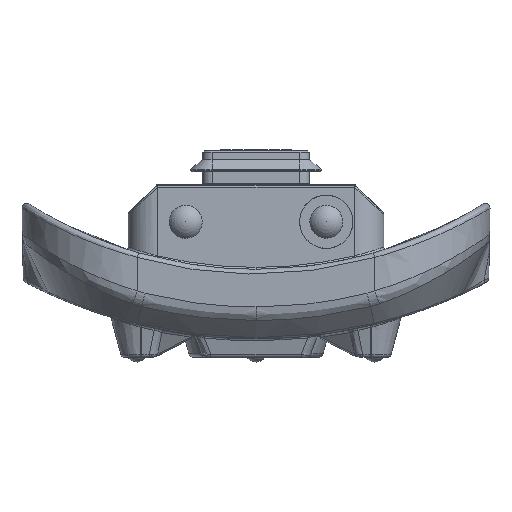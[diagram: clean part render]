
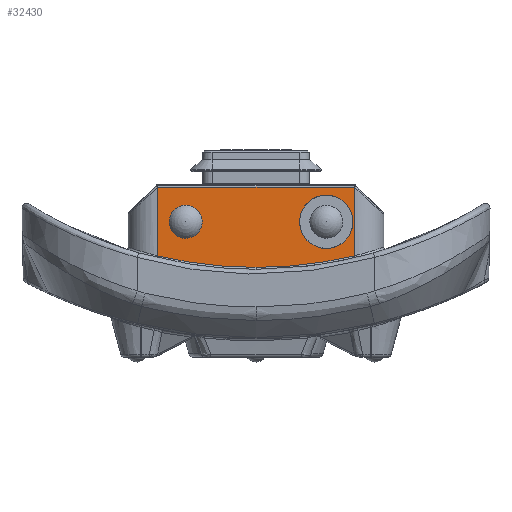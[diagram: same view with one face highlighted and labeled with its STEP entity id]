
A CAD part, front view. The second image highlights one B-rep face of the part: STEP entity #32430.
In plain terms, the highlighted planar face has unit normal (0, -1, 0).
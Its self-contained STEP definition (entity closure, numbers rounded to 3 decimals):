
#400 = EDGE_CURVE ( 'NONE', #36438, #31762, #28485, .T. ) ;
#517 = ORIENTED_EDGE ( 'NONE', *, *, #24513, .F. ) ;
#584 = LINE ( 'NONE', #31722, #32578 ) ;
#980 = ORIENTED_EDGE ( 'NONE', *, *, #3349, .T. ) ;
#2353 = DIRECTION ( 'NONE',  ( 0., 0., -1. ) ) ;
#2901 = DIRECTION ( 'NONE',  ( 0., -1., 0. ) ) ;
#3349 = EDGE_CURVE ( 'NONE', #8003, #18992, #8731, .T. ) ;
#3546 = ORIENTED_EDGE ( 'NONE', *, *, #6140, .T. ) ;
#4860 = ORIENTED_EDGE ( 'NONE', *, *, #33552, .F. ) ;
#4908 = LINE ( 'NONE', #25654, #18975 ) ;
#4979 = CIRCLE ( 'NONE', #25109, 2.809 ) ;
#5248 = AXIS2_PLACEMENT_3D ( 'NONE', #9848, #31419, #37528 ) ;
#5365 = DIRECTION ( 'NONE',  ( 0., 0., -1. ) ) ;
#5452 = EDGE_CURVE ( 'NONE', #26829, #27520, #4979, .T. ) ;
#5464 = VECTOR ( 'NONE', #39872, 1000. ) ;
#6140 = EDGE_CURVE ( 'NONE', #18992, #7410, #4908, .T. ) ;
#6546 = AXIS2_PLACEMENT_3D ( 'NONE', #11855, #2901, #5365 ) ;
#7048 = CARTESIAN_POINT ( 'NONE',  ( 10.346, 36.305, -36.351 ) ) ;
#7410 = VERTEX_POINT ( 'NONE', #12376 ) ;
#7664 = PLANE ( 'NONE',  #34642 ) ;
#8003 = VERTEX_POINT ( 'NONE', #7048 ) ;
#8391 = VERTEX_POINT ( 'NONE', #10214 ) ;
#8460 = DIRECTION ( 'NONE',  ( 0., -1., 0. ) ) ;
#8614 = ORIENTED_EDGE ( 'NONE', *, *, #27063, .F. ) ;
#8731 = LINE ( 'NONE', #39472, #5464 ) ;
#8926 = LINE ( 'NONE', #30700, #22835 ) ;
#9279 = VERTEX_POINT ( 'NONE', #38570 ) ;
#9387 = DIRECTION ( 'NONE',  ( 0., 0., -1. ) ) ;
#9848 = CARTESIAN_POINT ( 'NONE',  ( -7.4, 36.305, -40. ) ) ;
#10214 = CARTESIAN_POINT ( 'NONE',  ( 0., 36.305, -44.8 ) ) ;
#11076 = CIRCLE ( 'NONE', #6546, 2.809 ) ;
#11107 = EDGE_CURVE ( 'NONE', #9279, #8003, #8926, .T. ) ;
#11242 = EDGE_LOOP ( 'NONE', ( #16042, #24106, #37979, #8614, #21282, #980, #3546 ) ) ;
#11855 = CARTESIAN_POINT ( 'NONE',  ( 7.4, 36.305, -40. ) ) ;
#12036 = LINE ( 'NONE', #30958, #12367 ) ;
#12192 = EDGE_LOOP ( 'NONE', ( #28985, #517 ) ) ;
#12367 = VECTOR ( 'NONE', #9387, 1000. ) ;
#12376 = CARTESIAN_POINT ( 'NONE',  ( -10.35, 36.305, -36.354 ) ) ;
#12394 = CIRCLE ( 'NONE', #5248, 1.732 ) ;
#13000 = DIRECTION ( 'NONE',  ( 0., 0., -1. ) ) ;
#13506 = CARTESIAN_POINT ( 'NONE',  ( 10.35, 36.305, -43.588 ) ) ;
#14307 = DIRECTION ( 'NONE',  ( 0., -1., 0. ) ) ;
#16042 = ORIENTED_EDGE ( 'NONE', *, *, #38232, .T. ) ;
#16143 = AXIS2_PLACEMENT_3D ( 'NONE', #35283, #19204, #16752 ) ;
#16752 = DIRECTION ( 'NONE',  ( 0., 0., -1. ) ) ;
#16911 = CARTESIAN_POINT ( 'NONE',  ( -7.4, 36.305, -38.268 ) ) ;
#17564 = CIRCLE ( 'NONE', #33167, 44.8 ) ;
#17623 = FACE_BOUND ( 'NONE', #30719, .T. ) ;
#18975 = VECTOR ( 'NONE', #35006, 1000. ) ;
#18992 = VERTEX_POINT ( 'NONE', #21269 ) ;
#19204 = DIRECTION ( 'NONE',  ( 0., -1., 0. ) ) ;
#20239 = CARTESIAN_POINT ( 'NONE',  ( 7.4, 36.305, -40. ) ) ;
#20273 = DIRECTION ( 'NONE',  ( 0., 0., -1. ) ) ;
#20856 = CARTESIAN_POINT ( 'NONE',  ( 0., 36.305, 0. ) ) ;
#20947 = DIRECTION ( 'NONE',  ( -0.707, 0., 0.707 ) ) ;
#21269 = CARTESIAN_POINT ( 'NONE',  ( -10.346, 36.305, -36.351 ) ) ;
#21282 = ORIENTED_EDGE ( 'NONE', *, *, #11107, .T. ) ;
#22835 = VECTOR ( 'NONE', #20947, 1000. ) ;
#24106 = ORIENTED_EDGE ( 'NONE', *, *, #33499, .T. ) ;
#24513 = EDGE_CURVE ( 'NONE', #31762, #36438, #12394, .T. ) ;
#25109 = AXIS2_PLACEMENT_3D ( 'NONE', #20239, #32676, #38591 ) ;
#25654 = CARTESIAN_POINT ( 'NONE',  ( 13.002, 36.305, -13.002 ) ) ;
#25905 = CARTESIAN_POINT ( 'NONE',  ( 0., 36.305, 0. ) ) ;
#26829 = VERTEX_POINT ( 'NONE', #29127 ) ;
#27063 = EDGE_CURVE ( 'NONE', #9279, #33489, #584, .T. ) ;
#27520 = VERTEX_POINT ( 'NONE', #29392 ) ;
#28485 = CIRCLE ( 'NONE', #16143, 1.732 ) ;
#28985 = ORIENTED_EDGE ( 'NONE', *, *, #400, .F. ) ;
#29127 = CARTESIAN_POINT ( 'NONE',  ( 7.4, 36.305, -37.191 ) ) ;
#29371 = AXIS2_PLACEMENT_3D ( 'NONE', #20856, #37116, #2353 ) ;
#29392 = CARTESIAN_POINT ( 'NONE',  ( 7.4, 36.305, -42.809 ) ) ;
#29585 = DIRECTION ( 'NONE',  ( 0., 0., -1. ) ) ;
#30700 = CARTESIAN_POINT ( 'NONE',  ( 10.223, 36.305, -36.227 ) ) ;
#30719 = EDGE_LOOP ( 'NONE', ( #4860, #33529 ) ) ;
#30958 = CARTESIAN_POINT ( 'NONE',  ( -10.35, 36.305, -36.1 ) ) ;
#31419 = DIRECTION ( 'NONE',  ( 0., -1., 0. ) ) ;
#31722 = CARTESIAN_POINT ( 'NONE',  ( 10.35, 36.305, -36.1 ) ) ;
#31762 = VERTEX_POINT ( 'NONE', #16911 ) ;
#32430 = ADVANCED_FACE ( 'NONE', ( #17623, #33097, #35737 ), #7664, .T. ) ;
#32578 = VECTOR ( 'NONE', #13000, 1000. ) ;
#32676 = DIRECTION ( 'NONE',  ( 0., -1., 0. ) ) ;
#33097 = FACE_OUTER_BOUND ( 'NONE', #11242, .T. ) ;
#33167 = AXIS2_PLACEMENT_3D ( 'NONE', #25905, #14307, #29585 ) ;
#33287 = EDGE_CURVE ( 'NONE', #8391, #33489, #37728, .T. ) ;
#33489 = VERTEX_POINT ( 'NONE', #13506 ) ;
#33499 = EDGE_CURVE ( 'NONE', #38516, #8391, #17564, .T. ) ;
#33529 = ORIENTED_EDGE ( 'NONE', *, *, #5452, .F. ) ;
#33552 = EDGE_CURVE ( 'NONE', #27520, #26829, #11076, .T. ) ;
#34642 = AXIS2_PLACEMENT_3D ( 'NONE', #36336, #8460, #20273 ) ;
#35006 = DIRECTION ( 'NONE',  ( -0.707, 0., -0.707 ) ) ;
#35283 = CARTESIAN_POINT ( 'NONE',  ( -7.4, 36.305, -40. ) ) ;
#35737 = FACE_BOUND ( 'NONE', #12192, .T. ) ;
#36217 = CARTESIAN_POINT ( 'NONE',  ( -10.35, 36.305, -43.588 ) ) ;
#36336 = CARTESIAN_POINT ( 'NONE',  ( 10.35, 36.305, -36.1 ) ) ;
#36376 = CARTESIAN_POINT ( 'NONE',  ( -7.4, 36.305, -41.732 ) ) ;
#36438 = VERTEX_POINT ( 'NONE', #36376 ) ;
#37116 = DIRECTION ( 'NONE',  ( 0., -1., 0. ) ) ;
#37528 = DIRECTION ( 'NONE',  ( 0., 0., -1. ) ) ;
#37728 = CIRCLE ( 'NONE', #29371, 44.8 ) ;
#37979 = ORIENTED_EDGE ( 'NONE', *, *, #33287, .T. ) ;
#38232 = EDGE_CURVE ( 'NONE', #7410, #38516, #12036, .T. ) ;
#38516 = VERTEX_POINT ( 'NONE', #36217 ) ;
#38570 = CARTESIAN_POINT ( 'NONE',  ( 10.35, 36.305, -36.354 ) ) ;
#38591 = DIRECTION ( 'NONE',  ( 0., 0., -1. ) ) ;
#39472 = CARTESIAN_POINT ( 'NONE',  ( -10.35, 36.305, -36.351 ) ) ;
#39872 = DIRECTION ( 'NONE',  ( -1., 0., 0. ) ) ;
